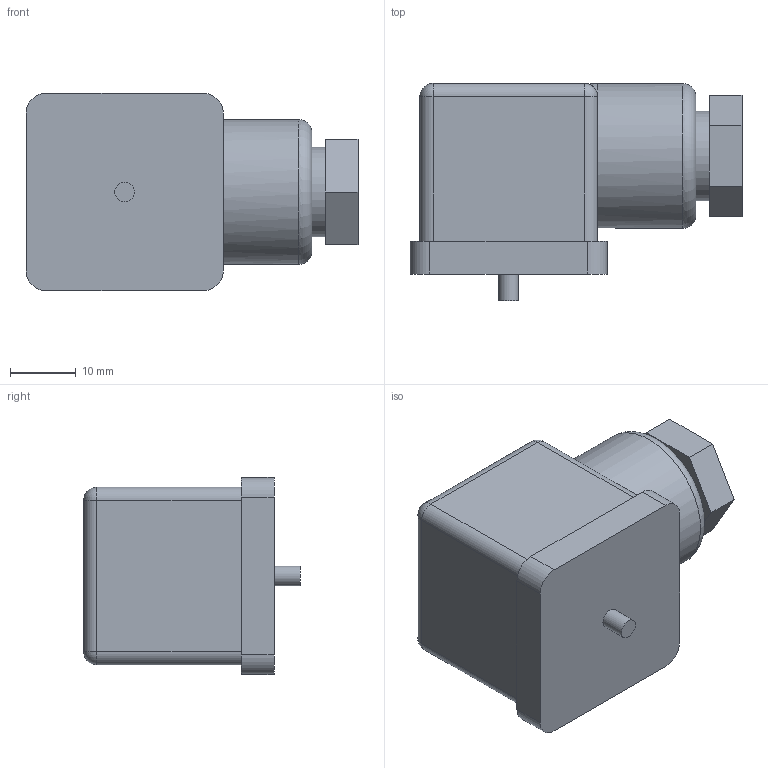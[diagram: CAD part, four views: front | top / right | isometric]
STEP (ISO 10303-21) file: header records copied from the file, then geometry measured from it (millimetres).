
FILE_DESCRIPTION( ( 'STEP AP214' ), '1' );
FILE_NAME( 'p:/temp/worker_193/temp/exporttempdir_6140_3_dS7GW/format_1/300.11.00.stp', '2021-02-05T12:16:24', ( 'License CC BY-ND 4.0' ), ( 'CADENAS' ), ' ', 'PARTsolutions', ' ' );
FILE_SCHEMA( ( 'AUTOMOTIVE_DESIGN { 1 0 10303 214 1 1 1 1 }' ) );
Length unit declared in the file: millimetre
Products named in the file (1): _300.11.00
Bounding box: 50.5 x 33 x 30 mm (x, y, z)
Volume: 26962 mm3; surface area: 7037.3 mm2
Topology: 1 solids, 1 shells, 46 faces, 109 edges, 64 vertices
Faces by surface type: plane 22, cylinder 17, sphere 4, bspline 2, torus 1
Full cylindrical faces by diameter (mm): 3 x1, 10.5 x1, 13.6 x1, 22 x1
Entity records: 1920 total; most frequent: CARTESIAN_POINT 531, DIRECTION 220, ORIENTED_EDGE 190, EDGE_CURVE 95, AXIS2_PLACEMENT_3D 82, VERTEX_POINT 61, EDGE_LOOP 56, LINE 56
